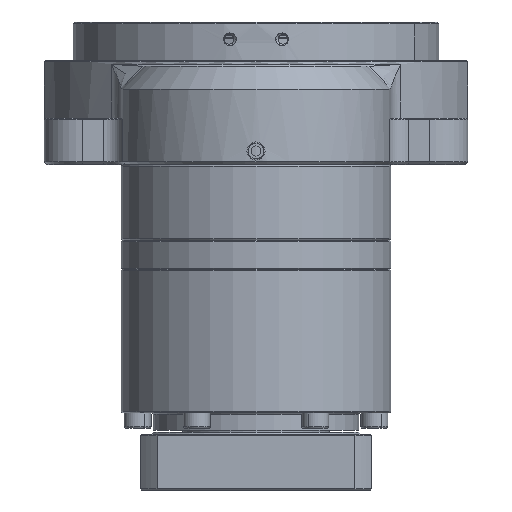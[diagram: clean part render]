
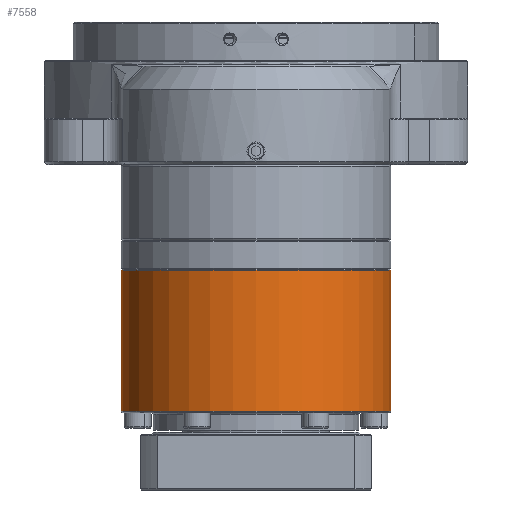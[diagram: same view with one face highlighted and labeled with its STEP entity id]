
A CAD part, front view. The second image highlights one B-rep face of the part: STEP entity #7558.
In plain terms, the highlighted cylindrical face has radius 35 mm (diameter 70 mm), a partial arc.
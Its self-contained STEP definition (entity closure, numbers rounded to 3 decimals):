
#123 = FACE_OUTER_BOUND ( 'NONE', #15638, .T. ) ;
#718 = ORIENTED_EDGE ( 'NONE', *, *, #10857, .F. ) ;
#1153 = CARTESIAN_POINT ( 'NONE',  ( 0., -33.019, -77.261 ) ) ;
#1197 = CIRCLE ( 'NONE', #4481, 35. ) ;
#2395 = CARTESIAN_POINT ( 'NONE',  ( 35., -33.019, -77.261 ) ) ;
#2579 = DIRECTION ( 'NONE',  ( 1., 0., 0. ) ) ;
#2620 = CIRCLE ( 'NONE', #14423, 35. ) ;
#3001 = LINE ( 'NONE', #9275, #15911 ) ;
#3796 = EDGE_CURVE ( 'NONE', #19729, #19160, #2620, .T. ) ;
#4021 = AXIS2_PLACEMENT_3D ( 'NONE', #18943, #4855, #13773 ) ;
#4375 = CARTESIAN_POINT ( 'NONE',  ( 35., -33.019, -40.761 ) ) ;
#4481 = AXIS2_PLACEMENT_3D ( 'NONE', #12892, #19184, #17648 ) ;
#4855 = DIRECTION ( 'NONE',  ( 0., 0., 1. ) ) ;
#5580 = CARTESIAN_POINT ( 'NONE',  ( -35., -33.019, -40.461 ) ) ;
#6121 = VERTEX_POINT ( 'NONE', #11873 ) ;
#7558 = ADVANCED_FACE ( 'NONE', ( #123 ), #12653, .T. ) ;
#8581 = ORIENTED_EDGE ( 'NONE', *, *, #12619, .F. ) ;
#9275 = CARTESIAN_POINT ( 'NONE',  ( 35., -33.019, -40.461 ) ) ;
#10404 = LINE ( 'NONE', #5580, #19754 ) ;
#10857 = EDGE_CURVE ( 'NONE', #19729, #6121, #10404, .T. ) ;
#10910 = ORIENTED_EDGE ( 'NONE', *, *, #18649, .T. ) ;
#11840 = DIRECTION ( 'NONE',  ( 0., 0., 1. ) ) ;
#11873 = CARTESIAN_POINT ( 'NONE',  ( -35., -33.019, -40.761 ) ) ;
#12562 = DIRECTION ( 'NONE',  ( 0., 0., 1. ) ) ;
#12619 = EDGE_CURVE ( 'NONE', #6121, #16072, #1197, .T. ) ;
#12653 = CYLINDRICAL_SURFACE ( 'NONE', #4021, 35. ) ;
#12702 = ORIENTED_EDGE ( 'NONE', *, *, #3796, .T. ) ;
#12892 = CARTESIAN_POINT ( 'NONE',  ( 0., -33.019, -40.761 ) ) ;
#13673 = DIRECTION ( 'NONE',  ( 0., 0., 1. ) ) ;
#13773 = DIRECTION ( 'NONE',  ( 1., 0., 0. ) ) ;
#14372 = CARTESIAN_POINT ( 'NONE',  ( -35., -33.019, -77.261 ) ) ;
#14423 = AXIS2_PLACEMENT_3D ( 'NONE', #1153, #13673, #2579 ) ;
#15638 = EDGE_LOOP ( 'NONE', ( #718, #12702, #10910, #8581 ) ) ;
#15911 = VECTOR ( 'NONE', #12562, 1000. ) ;
#16072 = VERTEX_POINT ( 'NONE', #4375 ) ;
#17648 = DIRECTION ( 'NONE',  ( 1., 0., 0. ) ) ;
#18649 = EDGE_CURVE ( 'NONE', #19160, #16072, #3001, .T. ) ;
#18943 = CARTESIAN_POINT ( 'NONE',  ( 0., -33.019, -40.461 ) ) ;
#19160 = VERTEX_POINT ( 'NONE', #2395 ) ;
#19184 = DIRECTION ( 'NONE',  ( 0., 0., 1. ) ) ;
#19729 = VERTEX_POINT ( 'NONE', #14372 ) ;
#19754 = VECTOR ( 'NONE', #11840, 1000. ) ;
